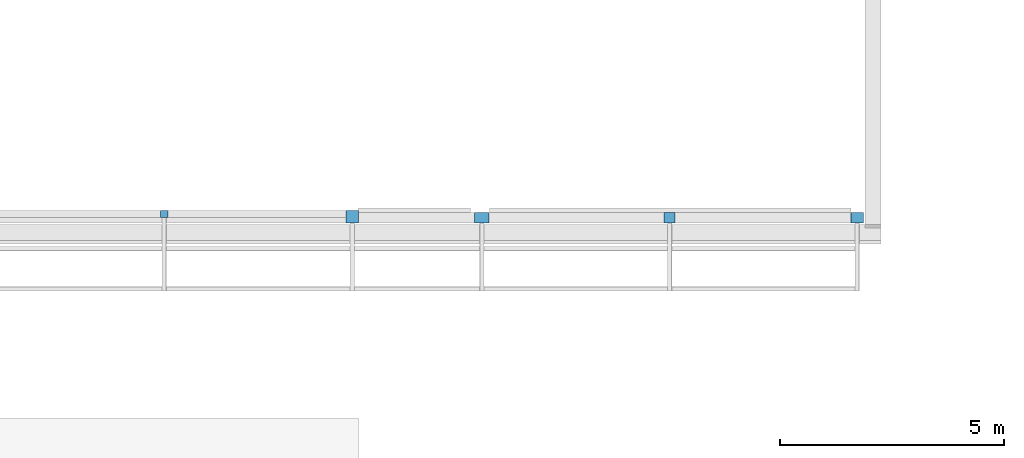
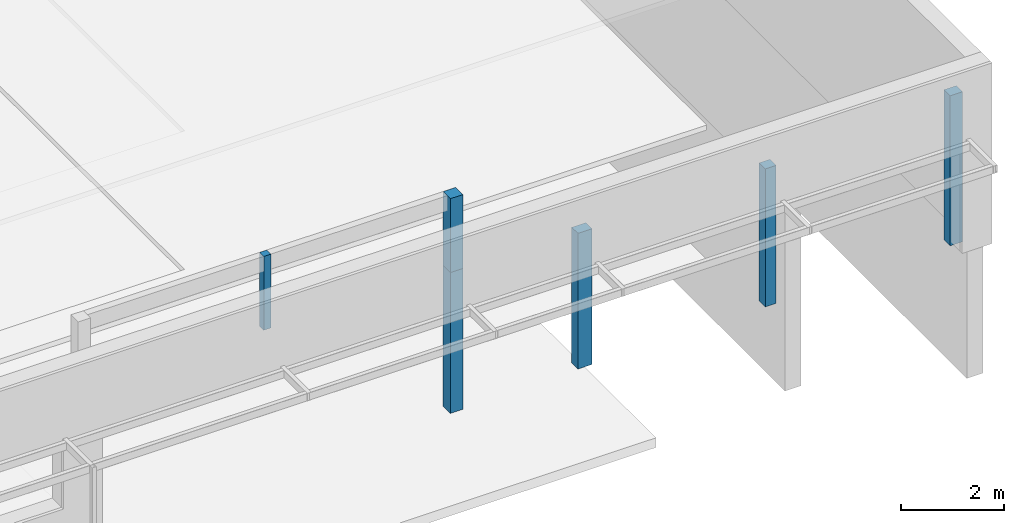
# One storey, part 8 of 78: 6 columns, 6 elements without a shape of their own.
"""IFC2X3 building model written with IfcOpenShell, lengths in millimetres."""

from ifc_helpers import new_model, si_unit, frame, origin_with_axes, origin_2d_with_axis, place, context, subcontext, project, spatial, rectangle, extrude, material, type_object, element, aggregate, save


model = new_model("IFC2X3")

# Units and contexts
model_context = context("Model", 3, precision=1e-05, world=origin_with_axes())
body_context = subcontext(model_context, "Body", "Model", "MODEL_VIEW")
ifc_project = project(units=[si_unit("LENGTHUNIT", "METRE", prefix="MILLI"), si_unit("AREAUNIT", "SQUARE_METRE"), si_unit("VOLUMEUNIT", "CUBIC_METRE"), si_unit("MASSUNIT", "GRAM", prefix="KILO"), si_unit("TIMEUNIT", "SECOND"), si_unit("PLANEANGLEUNIT", "RADIAN"), si_unit("SOLIDANGLEUNIT", "STERADIAN"), si_unit("THERMODYNAMICTEMPERATUREUNIT", "DEGREE_CELSIUS"), si_unit("LUMINOUSINTENSITYUNIT", "LUMEN")], contexts=[model_context])

# Site, building, storey
site_placement = place(None, origin_with_axes())
site = spatial("IfcSite", under=ifc_project, at=site_placement, Name="Site", CompositionType="ELEMENT")
building_placement = place(site_placement, origin_with_axes())
building = spatial("IfcBuilding", under=site, at=building_placement, Name="Undefined", CompositionType="ELEMENT")
storey_placement = place(building_placement, origin_with_axes())
storey = spatial("IfcBuildingStorey", under=building, at=storey_placement, Name="Undefined", CompositionType="ELEMENT", Elevation=0.0)

# Assembly, column
assembly_1_placement = place(storey_placement, origin_with_axes())
assembly_1 = element("IfcElementAssembly", 1, at=assembly_1_placement, inside=storey, Name="POUTRE", AssemblyPlace="NOTDEFINED", PredefinedType="NOTDEFINED")
ifc_material = material(Name="TIMBER/CHENE")
column_type_1 = type_object("IfcColumnType", Name="320*240", PredefinedType="NOTDEFINED")
column_1_placement = place(assembly_1_placement, frame((4326.56758823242, -6975.00174833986, 159900.04668965), z_axis=(0.0, 0.0, 1.0), x_axis=(-1.0, 0.0, 0.0)))
column_1 = element("IfcColumn", 2, at=column_1_placement, type_object=column_type_1, material=ifc_material, Name="POUTRE", ObjectType="320*240", context=body_context, shape_type="SweptSolid", body=[
    extrude(rectangle(XDim=240.0, YDim=320.0, at=origin_2d_with_axis()), frame((0.0, 0.0, 3229.99572753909), z_axis=(0.0, 0.0, -1.0), x_axis=(0.0, 1.0, 0.0)), (0.0, 0.0, 1.0), 3230.0),
])
aggregate(assembly_1, [column_1])

assembly_2_placement = place(storey_placement, origin_with_axes())
assembly_2 = element("IfcElementAssembly", 3, at=assembly_2_placement, inside=storey, Name="POUTRE", AssemblyPlace="NOTDEFINED", PredefinedType="NOTDEFINED")
column_type_2 = type_object("IfcColumnType", Name="280*240", PredefinedType="NOTDEFINED")
column_2_placement = place(assembly_2_placement, frame((12686.5677408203, -6975.00174833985, 159900.04668965), z_axis=(0.0, 0.0, 1.0), x_axis=(-1.0, 0.0, 0.0)))
column_2 = element("IfcColumn", 4, at=column_2_placement, type_object=column_type_2, material=ifc_material, Name="POUTRE", ObjectType="280*240", context=body_context, shape_type="SweptSolid", body=[
    extrude(rectangle(XDim=240.0, YDim=280.0, at=origin_2d_with_axis()), frame((0.0, 0.0, 3569.99572753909), z_axis=(0.0, 0.0, -1.0), x_axis=(0.0, 1.0, 0.0)), (0.0, 0.0, 1.0), 3570.0),
])
aggregate(assembly_2, [column_2])

assembly_3_placement = place(storey_placement, origin_with_axes())
assembly_3 = element("IfcElementAssembly", 5, at=assembly_3_placement, inside=storey, Name="POUTRE", AssemblyPlace="NOTDEFINED", PredefinedType="NOTDEFINED")
column_type_3 = type_object("IfcColumnType", Name="160*160", PredefinedType="NOTDEFINED")
column_3_placement = place(assembly_3_placement, frame((-2753.43225917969, -6895.00083281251, 163200.034482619), z_axis=(0.0, 0.0, 1.0), x_axis=(-1.0, 0.0, 0.0)))
column_3 = element("IfcColumn", 6, at=column_3_placement, type_object=column_type_3, material=ifc_material, Name="POUTRE", ObjectType="160*160", context=body_context, shape_type="SweptSolid", body=[
    extrude(rectangle(XDim=160.0, YDim=160.0, at=origin_2d_with_axis()), frame((0.0, 0.0, 1760.01389648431), z_axis=(0.0, 0.0, -1.0), x_axis=(0.0, 1.0, 0.0)), (0.0, 0.0, 1.0), 1760.01),
])
aggregate(assembly_3, [column_3])

assembly_4_placement = place(storey_placement, origin_with_axes())
assembly_4 = element("IfcElementAssembly", 7, at=assembly_4_placement, inside=storey, Name="POUTRE", AssemblyPlace="NOTDEFINED", PredefinedType="NOTDEFINED")
column_type_4 = type_object("IfcColumnType", Name="280*280", PredefinedType="NOTDEFINED")
column_4_placement = place(assembly_4_placement, frame((1436.56776905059, -6955.00101089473, 163200.03699707), z_axis=(0.0, 0.0, 1.0), x_axis=(-1.0, 0.0, 0.0)))
column_4 = element("IfcColumn", 8, at=column_4_placement, type_object=column_type_4, material=ifc_material, Name="POUTRE", ObjectType="280*280", context=body_context, shape_type="SweptSolid", body=[
    extrude(rectangle(XDim=280.0, YDim=280.0, at=origin_2d_with_axis()), frame((0.0, 0.0, 1760.01389648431), z_axis=(0.0, 0.0, -1.0), x_axis=(0.0, 1.0, 0.0)), (0.0, 0.0, 1.0), 1760.01),
])
aggregate(assembly_4, [column_4])

assembly_5_placement = place(storey_placement, origin_with_axes())
assembly_5 = element("IfcElementAssembly", 9, at=assembly_5_placement, inside=storey, Name="POUTRE", AssemblyPlace="NOTDEFINED", PredefinedType="NOTDEFINED")
column_5_placement = place(assembly_5_placement, frame((1436.5677690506, -6955.00101089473, 159850.043100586), z_axis=(0.0, 0.0, 1.0), x_axis=(-1.0, 0.0, 0.0)))
column_5 = element("IfcColumn", 10, at=column_5_placement, type_object=column_type_4, material=ifc_material, Name="POUTRE", ObjectType="280*280", context=body_context, shape_type="SweptSolid", body=[
    extrude(rectangle(XDim=280.0, YDim=280.0, at=origin_2d_with_axis()), frame((0.0, 0.0, 3349.99389648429), z_axis=(0.0, 0.0, -1.0), x_axis=(0.0, 1.0, 0.0)), (0.0, 0.0, 1.0), 3349.99),
])
aggregate(assembly_5, [column_5])

assembly_6_placement = place(storey_placement, origin_with_axes())
assembly_6 = element("IfcElementAssembly", 11, at=assembly_6_placement, inside=storey, Name="POUTRE", AssemblyPlace="NOTDEFINED", PredefinedType="NOTDEFINED")
column_type_5 = type_object("IfcColumnType", Name="240*240", PredefinedType="NOTDEFINED")
column_6_placement = place(assembly_6_placement, frame((8506.56697788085, -6975.00174833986, 159900.04668965), z_axis=(0.0, 0.0, 1.0), x_axis=(-1.0, 0.0, 0.0)))
column_6 = element("IfcColumn", 12, at=column_6_placement, type_object=column_type_5, material=ifc_material, Name="POUTRE", ObjectType="240*240", context=body_context, shape_type="SweptSolid", body=[
    extrude(rectangle(XDim=240.0, YDim=240.0, at=origin_2d_with_axis()), frame((0.0, 0.0, 3286.13572753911), z_axis=(0.0, 0.0, -1.0), x_axis=(0.0, 1.0, 0.0)), (0.0, 0.0, 1.0), 3286.14),
])
aggregate(assembly_6, [column_6])

save(model, "model.ifc")
